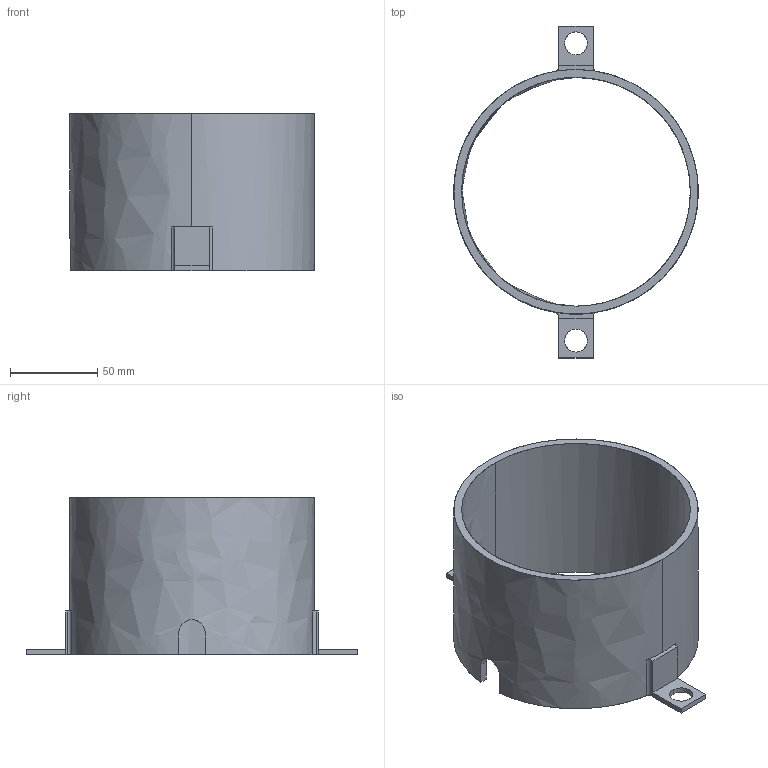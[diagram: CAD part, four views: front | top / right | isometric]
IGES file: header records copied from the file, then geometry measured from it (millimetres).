
Global section: file name: E:\UnigraphicsGraphicData\MISUMI_PRESS-PARTS\IGES\3d_ph90-90-r_07061_r00.igs; native system: NX V5.0; preprocessor: UGS NX IGES V5.0; author: MISUMI; date: 20110105.162245; units: millimetre
Bounding box: 139.8 x 189.8 x 90 mm (x, y, z)
Surface area: 84765.2 mm2 (no closed solid volume)
Topology: 0 solids, 0 shells, 41 faces, 290 edges, 290 vertices
Faces by surface type: bspline 41
